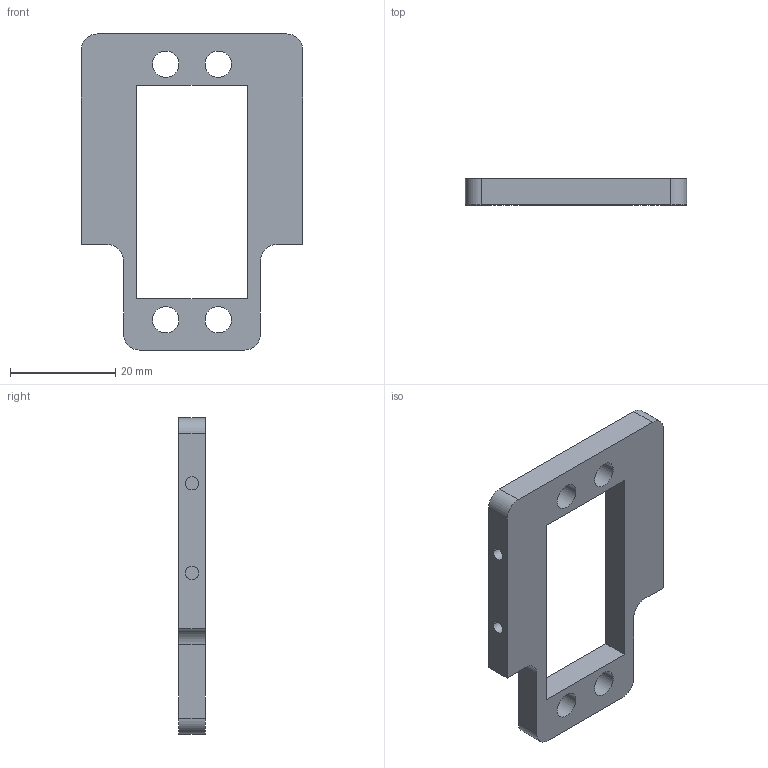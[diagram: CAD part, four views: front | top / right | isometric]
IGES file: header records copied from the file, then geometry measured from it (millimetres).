
Start section: START RECORD GO HERE.
Global section: file name: 8.igs; native system: DASSAULT SYSTEMES CATIA V5 R21 - www.3ds.com; preprocessor: CATIA Version 5 Release 21 ; author: E___; organization: MSI; date: 20160805.154036; units: millimetre
Bounding box: 42 x 5 x 60 mm (x, y, z)
Surface area: 4601.8 mm2 (no closed solid volume)
Topology: 0 solids, 0 shells, 40 faces, 204 edges, 204 vertices
Faces by surface type: revolution 22, plane 18
